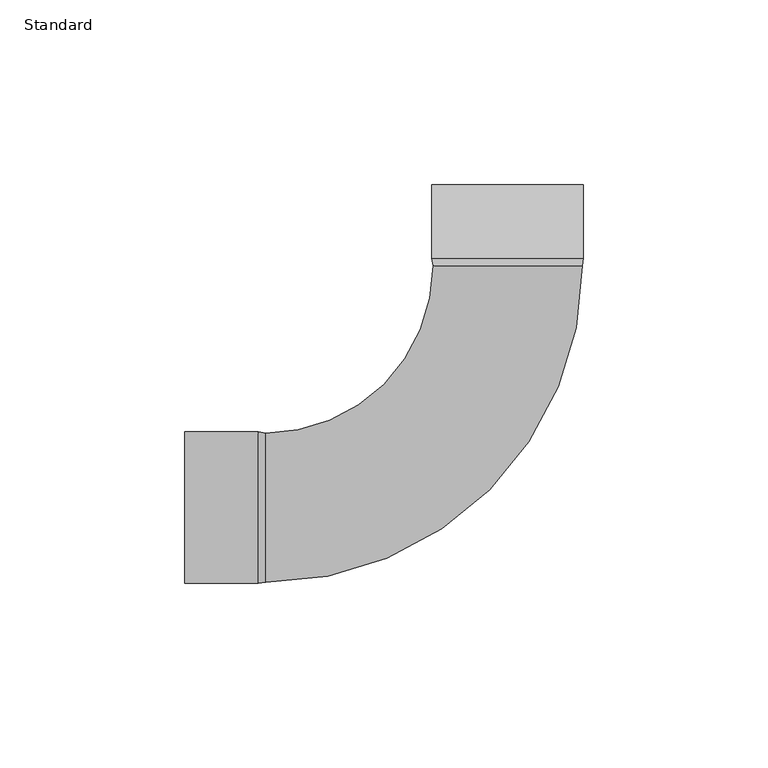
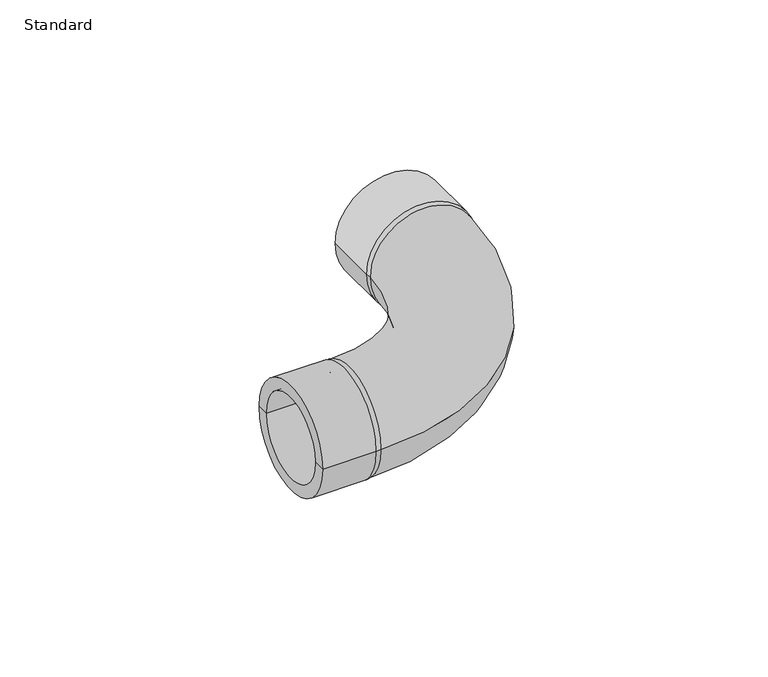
"""IFC4 building model written with IfcOpenShell, lengths in millimetres: pipe fitting geometry, Durapipe_PipeFitting_PVC_SR_Bend90deg : Standard."""

from ifc_helpers import new_model, si_unit, point, frame, origin, place, context, project, spatial, polyline, circle_curve, ellipse_curve, trimmed, source, transform, mapped, element, save
from ifc_brep_helpers import plane_surface, cylinder_surface, revolved_surface, advanced_brep


def standard_c417ec94(model_context):
    return source(origin(), model_context, "Body", "AdvancedBrep", [
        advanced_brep(
        [(20.5, 67.5, 0.0), (-20.5, 67.5, 0.0), (-20.5, 87.5, 0.0), (20.5, 87.5, 0.0), (20.2, 65.5, 0.0), (14.283557, 65.5, -14.283557), (0.0, 65.5, -20.2), (-14.283557, 65.5, -14.283557), (-20.2, 65.5, 0.0), (-14.283557, 65.5, 14.283557), (0.0, 65.5, 20.2), (14.283557, 65.5, 14.283557), (-16.0, 87.5, 0.0), (16.0, 87.5, 0.0), (-65.5, 20.2, 0.0), (-65.5, -20.2, 0.0), (-87.5, -16.0, 0.0), (-87.5, 16.0, 0.0), (-87.5, 20.5, 0.0), (-87.5, -20.5, 0.0), (-67.5, -20.5, 0.0), (-67.5, 20.5, 0.0), (-67.5, -16.0, 0.0), (-67.5, 16.0, 0.0), (-67.5, 0.0, 0.0), (16.0, 67.5, 0.0), (-16.0, 67.5, 0.0), (0.0, 67.5, 0.0)],
        [
            (0, 1, circle_curve(frame((0.0, 67.5, 0.0), z_axis=(0.0, 1.0, 0.0), x_axis=(-1.0, 0.0, 0.0)), 20.5)),
            (1, 2),
            (2, 3, circle_curve(frame((0.0, 87.5, 0.0), z_axis=(0.0, -1.0, 0.0), x_axis=(-1.0, 0.0, 0.0)), 20.5)),
            (3, 0),
            (1, 0, circle_curve(frame((0.0, 67.5, 0.0), z_axis=(0.0, 1.0, 0.0), x_axis=(-1.0, 0.0, 0.0)), 20.5)),
            (3, 2, circle_curve(frame((0.0, 87.5, 0.0), z_axis=(0.0, -1.0, 0.0), x_axis=(-1.0, 0.0, 0.0)), 20.5)),
            (0, 4),
            (4, 5, circle_curve(frame((0.0, 65.5, 0.0), z_axis=(0.0, 1.0, 0.0), x_axis=(-1.0, 0.0, 0.0)), 20.2)),
            (5, 6, circle_curve(frame((0.0, 65.5, 0.0), z_axis=(0.0, 1.0, 0.0), x_axis=(-1.0, 0.0, 0.0)), 20.2)),
            (6, 7, circle_curve(frame((0.0, 65.5, 0.0), z_axis=(0.0, 1.0, 0.0), x_axis=(-1.0, 0.0, 0.0)), 20.2)),
            (7, 8, circle_curve(frame((0.0, 65.5, 0.0), z_axis=(0.0, 1.0, 0.0), x_axis=(-1.0, 0.0, 0.0)), 20.2)),
            (8, 1),
            (8, 9, circle_curve(frame((0.0, 65.5, 0.0), z_axis=(0.0, 1.0, 0.0), x_axis=(-1.0, 0.0, 0.0)), 20.2)),
            (9, 10, circle_curve(frame((0.0, 65.5, 0.0), z_axis=(0.0, 1.0, 0.0), x_axis=(-1.0, 0.0, 0.0)), 20.2)),
            (10, 11, circle_curve(frame((0.0, 65.5, 0.0), z_axis=(0.0, 1.0, 0.0), x_axis=(-1.0, 0.0, 0.0)), 20.2)),
            (11, 4, circle_curve(frame((0.0, 65.5, 0.0), z_axis=(0.0, 1.0, 0.0), x_axis=(-1.0, 0.0, 0.0)), 20.2)),
            (2, 12),
            (12, 13, circle_curve(frame((0.0, 87.5, 0.0), z_axis=(0.0, -1.0, 0.0), x_axis=(-1.0, 0.0, 0.0)), 16.0)),
            (13, 3),
            (13, 12, circle_curve(frame((0.0, 87.5, 0.0), z_axis=(0.0, -1.0, 0.0), x_axis=(-1.0, 0.0, 0.0)), 16.0)),
            (8, 14, circle_curve(frame((-65.5, 65.5, 0.0), z_axis=(0.0, 0.0, -1.0), x_axis=(0.0, -1.0, 0.0)), 45.3)),
            (14, 15, circle_curve(frame((-65.5, 0.0, 0.0), z_axis=(1.0, 0.0, 0.0), x_axis=(0.0, 1.0, 0.0)), 20.2)),
            (15, 4, circle_curve(frame((-65.5, 65.5, 0.0), z_axis=(0.0, 0.0, 1.0), x_axis=(0.0, -1.0, 0.0)), 85.7)),
            (15, 14, circle_curve(frame((-65.5, 0.0, 0.0), z_axis=(1.0, 0.0, 0.0), x_axis=(0.0, 1.0, 0.0)), 20.2)),
            (16, 17, circle_curve(frame((-87.5, 0.0, 0.0), z_axis=(1.0, 0.0, 0.0), x_axis=(0.0, 1.0, 0.0)), 16.0)),
            (17, 18),
            (18, 19, circle_curve(frame((-87.5, 0.0, 0.0), z_axis=(-1.0, 0.0, 0.0), x_axis=(0.0, 1.0, 0.0)), 20.5)),
            (19, 16),
            (17, 16, circle_curve(frame((-87.5, 0.0, 0.0), z_axis=(1.0, 0.0, 0.0), x_axis=(0.0, 1.0, 0.0)), 16.0)),
            (19, 18, circle_curve(frame((-87.5, 0.0, 0.0), z_axis=(-1.0, 0.0, 0.0), x_axis=(0.0, 1.0, 0.0)), 20.5)),
            (20, 21, circle_curve(frame((-67.5, 0.0, 0.0), z_axis=(1.0, 0.0, 0.0), x_axis=(0.0, 1.0, 0.0)), 20.5)),
            (21, 14),
            (15, 20),
            (21, 20, circle_curve(frame((-67.5, 0.0, 0.0), z_axis=(1.0, 0.0, 0.0), x_axis=(0.0, 1.0, 0.0)), 20.5)),
            (18, 21),
            (20, 19),
            (16, 22),
            (22, 23, circle_curve(frame((-67.5, 0.0, 0.0), z_axis=(1.0, 0.0, 0.0), x_axis=(0.0, 1.0, 0.0)), 16.0)),
            (23, 17),
            (23, 22, circle_curve(frame((-67.5, 0.0, 0.0), z_axis=(1.0, 0.0, 0.0), x_axis=(0.0, 1.0, 0.0)), 16.0)),
            (22, 24),
            (24, 23),
            (25, 26, circle_curve(frame((0.0, 67.5, 0.0), z_axis=(0.0, 1.0, 0.0), x_axis=(-1.0, 0.0, 0.0)), 16.0)),
            (26, 27),
            (27, 25),
            (26, 25, circle_curve(frame((0.0, 67.5, 0.0), z_axis=(0.0, 1.0, 0.0), x_axis=(-1.0, 0.0, 0.0)), 16.0)),
            (12, 26),
            (25, 13),
        ],
        [
            cylinder_surface(frame((0.0, 2030.5, 0.0), z_axis=(0.0, -1.0, 0.0), x_axis=(-1.0, 0.0, 0.0)), 20.5),
            revolved_surface(polyline([(-20.5, 67.5, 0.0), (-20.2, 65.5, 0.0)]), (0.0, 2030.5, 0.0), (0.0, -1.0, 0.0)),
            plane_surface(frame((0.0, 87.5, 0.0), z_axis=(0.0, 1.0, 0.0), x_axis=(-1.0, 0.0, 0.0))),
            revolved_surface(trimmed(ellipse_curve(frame((-65.5, 0.0, 0.0), z_axis=(-1.0, 0.0, 0.0), x_axis=(0.0, 1.0, 0.0)), 20.2, 20.2), [point((-65.5, -20.2, 0.0))], [point((-65.5, 20.2, 0.0))], True, "CARTESIAN"), (-65.5, 65.5, 0.0), (0.0, 0.0, 1.0)),
            revolved_surface(trimmed(ellipse_curve(frame((-65.5, 0.0, 0.0), z_axis=(-1.0, 0.0, 0.0), x_axis=(0.0, 1.0, 0.0)), 20.2, 20.2), [point((-65.5, 20.2, 0.0))], [point((-65.5, -20.2, 0.0))], True, "CARTESIAN"), (-65.5, 65.5, 0.0), (0.0, 0.0, 1.0)),
            plane_surface(frame((-87.5, 0.0, 0.0), z_axis=(-1.0, 0.0, 0.0), x_axis=(0.0, 1.0, 0.0))),
            revolved_surface(polyline([(-65.5, 20.2, 0.0), (-67.5, 20.5, 0.0)]), (2007.5, 0.0, 0.0), (-1.0, 0.0, 0.0)),
            cylinder_surface(frame((2007.5, 0.0, 0.0), z_axis=(-1.0, 0.0, 0.0), x_axis=(0.0, 1.0, 0.0)), 20.5),
            revolved_surface(polyline([(-87.5, 16.0, 0.0), (-67.5, 16.0, 0.0)]), (2007.5, 0.0, 0.0), (-1.0, 0.0, 0.0)),
            plane_surface(frame((-67.5, 0.0, 0.0), z_axis=(-1.0, 0.0, 0.0), x_axis=(0.0, 1.0, 0.0))),
            plane_surface(frame((0.0, 67.5, 0.0), z_axis=(0.0, 1.0, 0.0), x_axis=(-1.0, 0.0, 0.0))),
            revolved_surface(polyline([(-16.0, 67.5, 0.0), (-16.0, 87.5, 0.0)]), (0.0, 2030.5, 0.0), (0.0, -1.0, 0.0)),
        ],
        [
            (0, [[1, 2, 3, 4]]),
            (0, [[-2, 5, -4, 6]]),
            (1, [[-1, 7, 8, 9, 10, 11, 12]]),
            (1, [[-5, -12, 13, 14, 15, 16, -7]]),
            (2, [[-3, 17, 18, 19]]),
            (2, [[-6, -19, 20, -17]]),
            (3, [[21, 22, 23, -16, -15, -14, -13]]),
            (4, [[-21, -11, -10, -9, -8, -23, 24]]),
            (5, [[25, 26, 27, 28]]),
            (5, [[-26, 29, -28, 30]]),
            (6, [[31, 32, -24, 33]]),
            (6, [[-32, 34, -33, -22]]),
            (7, [[-27, 35, -31, 36]]),
            (7, [[-30, -36, -34, -35]]),
            (8, [[-25, 37, 38, 39]]),
            (8, [[-29, -39, 40, -37]]),
            (9, [[-38, 41, 42]]),
            (9, [[-40, -42, -41]]),
            (10, [[43, 44, 45]]),
            (10, [[-44, 46, -45]]),
            (11, [[-18, 47, -43, 48]]),
            (11, [[-20, -48, -46, -47]]),
        ],
    ),
    ])


if __name__ == "__main__":
    model = new_model("IFC4")
    model_context = context("Model", 3, world=origin())
    ifc_project = project(units=[si_unit("LENGTHUNIT", "METRE", prefix="MILLI")], contexts=[model_context])
    site = spatial("IfcSite", under=ifc_project)
    building = spatial("IfcBuilding", under=site)
    placement = place(None, origin())
    standard_shape = standard_c417ec94(model_context)
    element("IfcPipeFitting", 1, ObjectType="Durapipe_PipeFitting_PVC_SR_Bend90deg : Standard", at=placement, inside=building, context=model_context, shape_type="MappedRepresentation", body=[
        mapped(standard_shape, transform((0.0, 0.0, 0.0), x_axis=(1.0, 0.0, 0.0), y_axis=(0.0, 1.0, 0.0), z_axis=(0.0, 0.0, 1.0))),
    ])
    save(model, "model.ifc")
